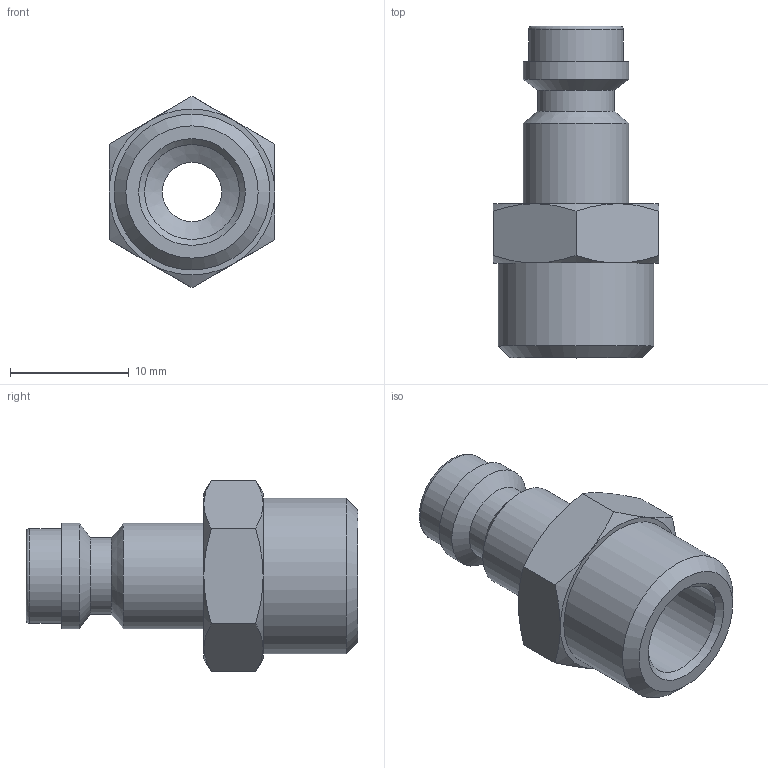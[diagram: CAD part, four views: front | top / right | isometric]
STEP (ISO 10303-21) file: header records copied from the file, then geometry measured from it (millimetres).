
FILE_DESCRIPTION(/* description */ (''),/* implementation_level */ '2;1');
FILE_NAME(/* name */ 'S:\_Tecnico\ArchivioUT\_Disegni3D ingombri\DISEGNI 3D per ingombri\GM\GM600014.stp',/* time_stamp */ '2020-11-26T11:09:30+01:00',/* author */ ('ufficiotecnico3'),/* organization */ (''),/* preprocessor_version */ 'ST-DEVELOPER v18',/* originating_system */ 'Autodesk Inventor 2020',/* authorisation */ '');
FILE_SCHEMA (('AUTOMOTIVE_DESIGN { 1 0 10303 214 3 1 1 }'));
Length unit declared in the file: millimetre
Products named in the file (1): GM600014
Bounding box: 14 x 28 x 16.17 mm (x, y, z)
Volume: 1854.8 mm3; surface area: 1765.1 mm2
Topology: 1 solids, 1 shells, 36 faces, 88 edges, 57 vertices
Faces by surface type: cone 17, plane 11, cylinder 7, torus 1
Full cylindrical faces by diameter (mm): 5 x1, 6.5 x1, 8 x2, 8.9 x2, 13.157 x1
Entity records: 1099 total; most frequent: CARTESIAN_POINT 230, DIRECTION 184, ORIENTED_EDGE 176, EDGE_CURVE 88, AXIS2_PLACEMENT_3D 83, VERTEX_POINT 57, CIRCLE 46, EDGE_LOOP 41
